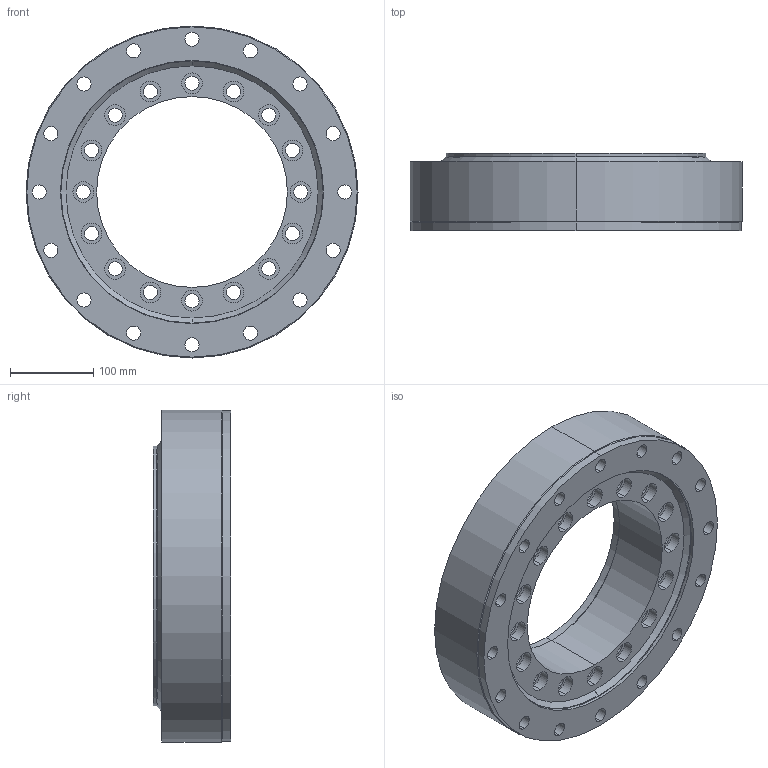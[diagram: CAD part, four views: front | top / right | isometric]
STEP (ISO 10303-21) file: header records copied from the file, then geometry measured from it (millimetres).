
FILE_DESCRIPTION (( 'STEP AP203' ), '1' );
FILE_NAME ('B2220-0-0400BB.STEP', '2022-04-29T06:29:32', ( '' ), ( '' ), 'SwSTEP 2.0', 'SolidWorks 2020', '' );
FILE_SCHEMA (( 'CONFIG_CONTROL_DESIGN' ));
Length unit declared in the file: millimetre
Products named in the file (1): B2220-0-0400BB
Bounding box: 400 x 93 x 400 mm (x, y, z)
Volume: 6133997.6 mm3; surface area: 719938.1 mm2
Topology: 4 solids, 4 shells, 207 faces, 478 edges, 316 vertices
Faces by surface type: cylinder 152, plane 45, cone 10
Entity records: 6259 total; most frequent: DIRECTION 1210, CARTESIAN_POINT 1002, ORIENTED_EDGE 956, AXIS2_PLACEMENT_3D 524, EDGE_CURVE 478, EDGE_LOOP 316, VERTEX_POINT 316, CIRCLE 316
